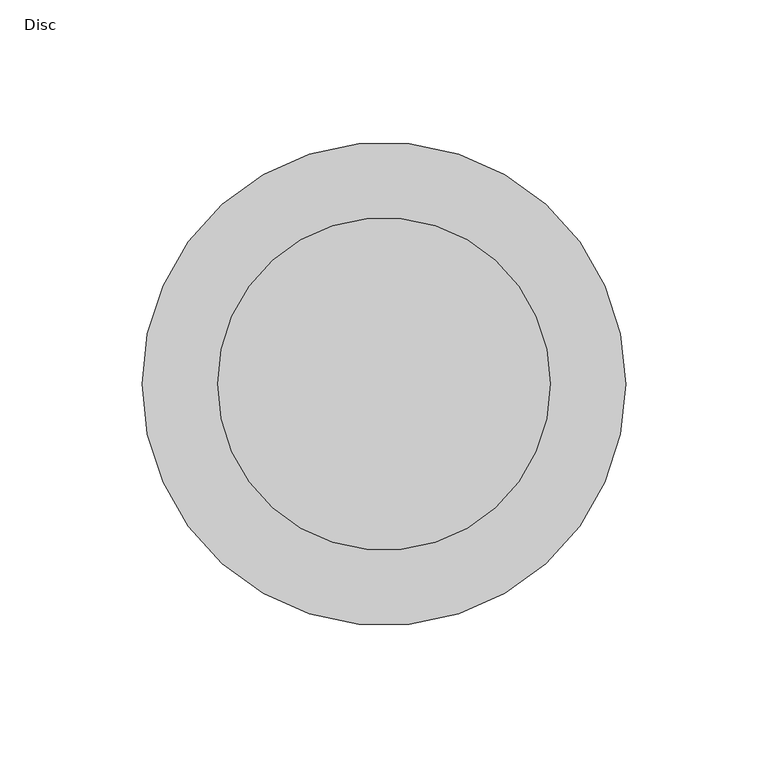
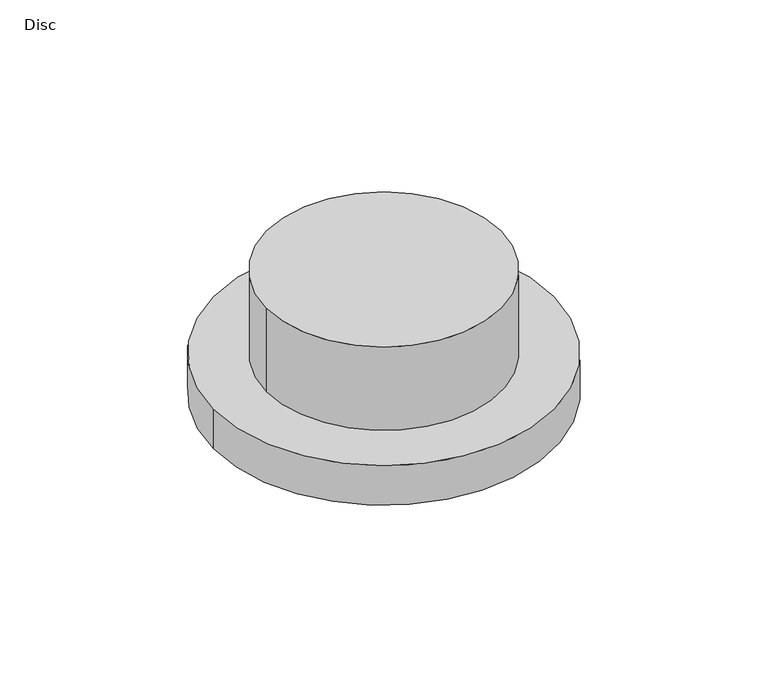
"""IFC4 building model written with IfcOpenShell, lengths in millimetres: air terminal geometry, NLRS_57_AIR_WPB_extraction air valve_M&G : Disc."""

from ifc_helpers import new_model, si_unit, point, frame, origin, origin_with_axes, origin_2d, place, context, project, spatial, circle_curve, trimmed, segment, composite_curve, outline, extrude, source, transform, mapped, element, save


def disc_9b21ed11(model_context):
    return source(origin(), model_context, "Body", "SweptSolid", [
        extrude(outline(composite_curve([segment(trimmed(circle_curve(origin_2d(), 58.5), [point((-58.5, 0.0))], [point((58.5, 0.0))], False, "CARTESIAN"), True, "CONTINUOUS"), segment(trimmed(circle_curve(origin_2d(), 58.5), [point((58.5, 0.0))], [point((-58.5, 0.0))], False, "CARTESIAN"), True, "CONTINUOUS")], self_intersect=False)), origin_with_axes(), (0.0, 0.0, 1.0), 44.0),
        extrude(outline(composite_curve([segment(trimmed(circle_curve(origin_2d(), 85.0), [point((-85.0, 0.0))], [point((85.0, 0.0))], False, "CARTESIAN"), True, "CONTINUOUS"), segment(trimmed(circle_curve(origin_2d(), 85.0), [point((85.0, 0.0))], [point((-85.0, 0.0))], False, "CARTESIAN"), True, "CONTINUOUS")], self_intersect=False)), frame((0.0, 0.0, -21.0), z_axis=(0.0, 0.0, 1.0), x_axis=(1.0, 0.0, 0.0)), (0.0, 0.0, 1.0), 21.0),
        extrude(outline(composite_curve([segment(trimmed(circle_curve(origin_2d(), 58.5), [point((58.5, 0.0))], [point((-58.5, 0.0))], False, "CARTESIAN"), True, "CONTINUOUS"), segment(trimmed(circle_curve(origin_2d(), 58.5), [point((-58.5, 0.0))], [point((58.5, 0.0))], False, "CARTESIAN"), True, "CONTINUOUS")], self_intersect=False)), frame((0.0, 0.0, -36.0), z_axis=(0.0, 0.0, 1.0), x_axis=(1.0, 0.0, 0.0)), (0.0, 0.0, 1.0), 36.0),
    ])


if __name__ == "__main__":
    model = new_model("IFC4")
    model_context = context("Model", 3, world=origin())
    ifc_project = project(units=[si_unit("LENGTHUNIT", "METRE", prefix="MILLI")], contexts=[model_context])
    site = spatial("IfcSite", under=ifc_project)
    building = spatial("IfcBuilding", under=site)
    placement = place(None, origin())
    disc_shape = disc_9b21ed11(model_context)
    element("IfcAirTerminal", 1, ObjectType="NLRS_57_AIR_WPB_extraction air valve_M&G : Disc", at=placement, inside=building, context=model_context, shape_type="MappedRepresentation", body=[
        mapped(disc_shape, transform((0.0, 0.0, 0.0), x_axis=(1.0, 0.0, 0.0), y_axis=(0.0, 1.0, 0.0), z_axis=(0.0, 0.0, 1.0))),
    ])
    save(model, "model.ifc")
